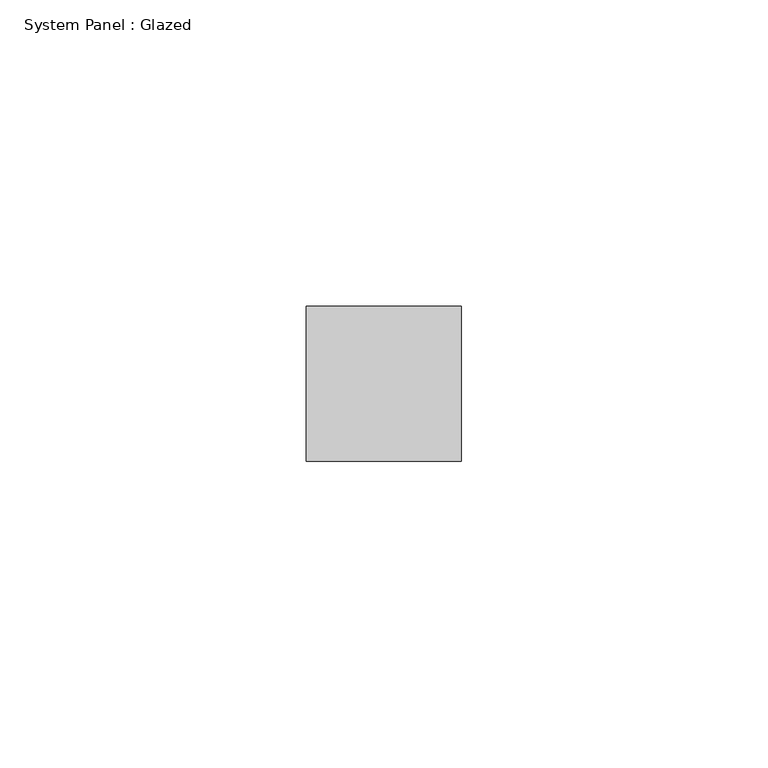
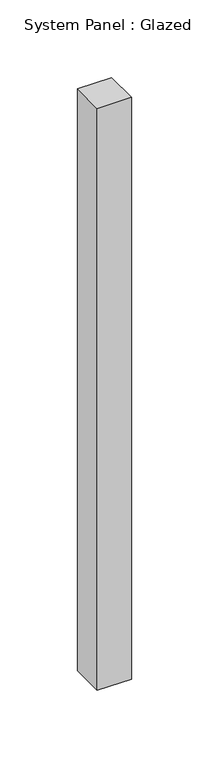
"""IFC4 building model written with IfcOpenShell, lengths in millimetres: plate geometry, System Panel : Glazed."""

from ifc_helpers import new_model, si_unit, origin, origin_with_axes, place, context, project, spatial, polyline, outline, extrude, source, transform, mapped, element, save


def system_panel_glazed_1209dbea(model_context):
    return source(origin(), model_context, "Body", "SweptSolid", [
        extrude(outline(polyline([(12.6999998, 19.05), (-12.6999998, 19.05), (-12.6999998, 44.45), (12.6999998, 44.45), (12.6999998, 19.05)])), origin_with_axes(), (0.0, 0.0, 1.0), 457.2),
    ])


if __name__ == "__main__":
    model = new_model("IFC4")
    model_context = context("Model", 3, world=origin())
    ifc_project = project(units=[si_unit("LENGTHUNIT", "METRE", prefix="MILLI")], contexts=[model_context])
    site = spatial("IfcSite", under=ifc_project)
    building = spatial("IfcBuilding", under=site)
    placement = place(None, origin())
    system_panel_glazed_shape = system_panel_glazed_1209dbea(model_context)
    element("IfcPlate", 1, ObjectType="System Panel : Glazed", at=placement, inside=building, context=model_context, shape_type="MappedRepresentation", body=[
        mapped(system_panel_glazed_shape, transform((0.0, 0.0, 0.0), x_axis=(1.0, 0.0, 0.0), y_axis=(0.0, 1.0, 0.0), z_axis=(0.0, 0.0, 1.0))),
    ])
    save(model, "model.ifc")
